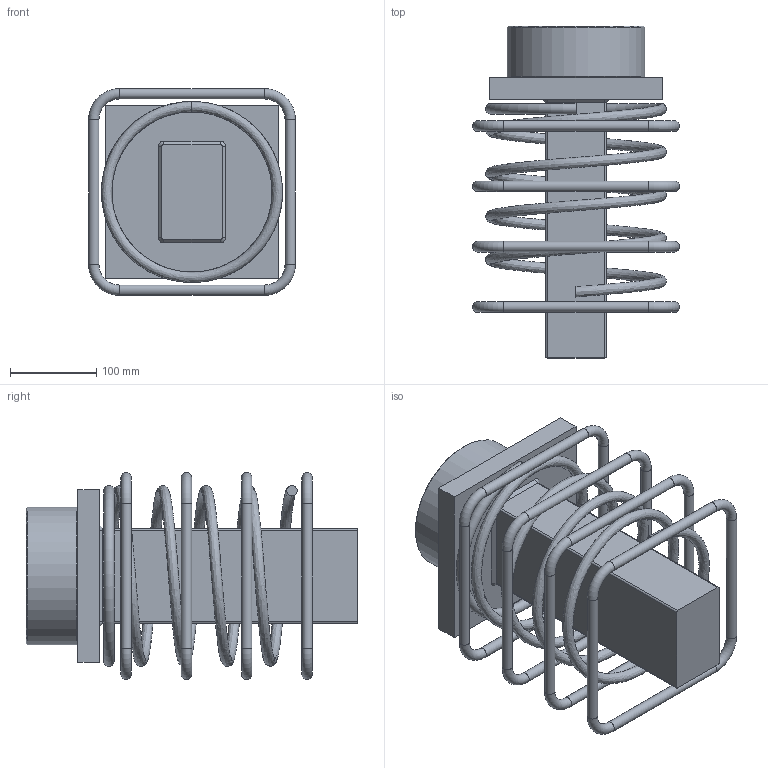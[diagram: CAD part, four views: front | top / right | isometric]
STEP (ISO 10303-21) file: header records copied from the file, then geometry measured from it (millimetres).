
FILE_DESCRIPTION(/* description */ (''),/* implementation_level */ '2;1');
FILE_NAME(/* name */ 'Z:\04 Publications\05 Give-out\BBR\6_3D_Models\BBR VT CONA CMB\03 x 206\BBR VT CONA CMB SP_03 x 206_Anchorage A Assembly.stp',/* time_stamp */ '2017-05-09T11:56:55+02:00',/* author */ ('IP'),/* organization */ (''),/* preprocessor_version */ 'ST-DEVELOPER v16.1',/* originating_system */ 'Autodesk Inventor 2016',/* authorisation */ '');
FILE_SCHEMA (('AUTOMOTIVE_DESIGN { 1 0 10303 214 3 1 1 }'));
Length unit declared in the file: millimetre
Products named in the file (1): BBR VT CONA CMB SP_03 x 206_Anchorage A Assembly
Bounding box: 240 x 385.1 x 240 mm (x, y, z)
Volume: 5258243.5 mm3; surface area: 484490.5 mm2
Topology: 6 solids, 6 shells, 717 faces, 1914 edges, 1262 vertices
Faces by surface type: bspline 338, plane 335, cylinder 21, torus 17, cone 6
Full cylindrical faces by diameter (mm): 12 x16, 160 x1
Entity records: 26443 total; most frequent: CARTESIAN_POINT 10235, ORIENTED_EDGE 3756, DIRECTION 2015, EDGE_CURVE 1878, VERTEX_POINT 1262, LINE 1151, VECTOR 1151, EDGE_LOOP 814
